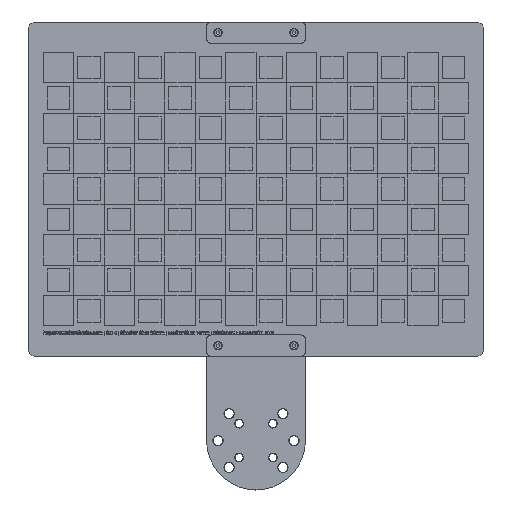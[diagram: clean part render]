
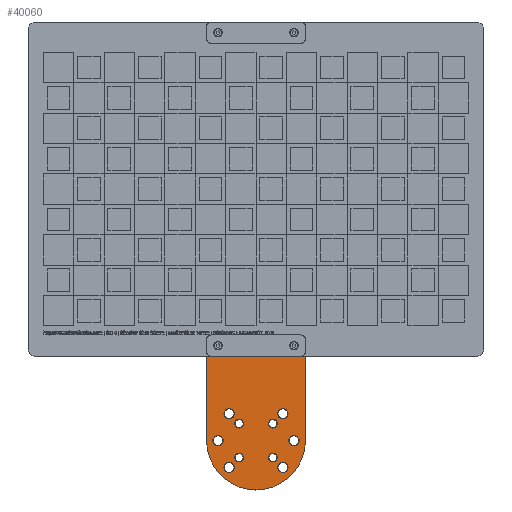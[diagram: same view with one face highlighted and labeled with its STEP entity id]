
A CAD part, top view. The second image highlights one B-rep face of the part: STEP entity #40060.
In plain terms, the highlighted planar face has unit normal (0, 0, 1).
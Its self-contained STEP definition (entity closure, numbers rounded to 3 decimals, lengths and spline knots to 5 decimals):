
#2836=CIRCLE('',#42853,0.0034);
#2837=CIRCLE('',#42854,0.0034);
#2838=CIRCLE('',#42855,0.0034);
#2839=CIRCLE('',#42856,0.0034);
#2840=CIRCLE('',#42857,0.0034);
#2841=CIRCLE('',#42858,0.0034);
#2842=CIRCLE('',#42859,0.00285);
#2843=CIRCLE('',#42860,0.00285);
#2844=CIRCLE('',#42861,0.00285);
#2845=CIRCLE('',#42862,0.00285);
#2846=CIRCLE('',#42863,0.00132);
#2847=CIRCLE('',#42864,0.00132);
#2848=CIRCLE('',#42865,0.00132);
#2849=CIRCLE('',#42866,0.00132);
#2850=CIRCLE('',#42867,0.003);
#2851=CIRCLE('',#42868,0.003);
#2852=CIRCLE('',#42869,0.0325);
#2996=ORIENTED_EDGE('',*,*,#15059,.T.);
#2997=ORIENTED_EDGE('',*,*,#15060,.T.);
#2998=ORIENTED_EDGE('',*,*,#15061,.T.);
#2999=ORIENTED_EDGE('',*,*,#15062,.T.);
#3000=ORIENTED_EDGE('',*,*,#15063,.T.);
#3001=ORIENTED_EDGE('',*,*,#15064,.T.);
#3002=ORIENTED_EDGE('',*,*,#15065,.T.);
#3003=ORIENTED_EDGE('',*,*,#15066,.T.);
#3004=ORIENTED_EDGE('',*,*,#15067,.T.);
#3005=ORIENTED_EDGE('',*,*,#15068,.T.);
#3006=ORIENTED_EDGE('',*,*,#15069,.T.);
#3007=ORIENTED_EDGE('',*,*,#15070,.T.);
#3008=ORIENTED_EDGE('',*,*,#15071,.T.);
#3009=ORIENTED_EDGE('',*,*,#15072,.T.);
#3010=ORIENTED_EDGE('',*,*,#15073,.T.);
#3011=ORIENTED_EDGE('',*,*,#15074,.T.);
#3012=ORIENTED_EDGE('',*,*,#15075,.T.);
#3013=ORIENTED_EDGE('',*,*,#15076,.T.);
#3014=ORIENTED_EDGE('',*,*,#15077,.F.);
#3015=ORIENTED_EDGE('',*,*,#15078,.T.);
#15059=EDGE_CURVE('',#21099,#21099,#2836,.F.);
#15060=EDGE_CURVE('',#21100,#21100,#2837,.F.);
#15061=EDGE_CURVE('',#21101,#21101,#2838,.F.);
#15062=EDGE_CURVE('',#21102,#21102,#2839,.F.);
#15063=EDGE_CURVE('',#21103,#21103,#2840,.F.);
#15064=EDGE_CURVE('',#21104,#21104,#2841,.F.);
#15065=EDGE_CURVE('',#21105,#21105,#2842,.F.);
#15066=EDGE_CURVE('',#21106,#21106,#2843,.F.);
#15067=EDGE_CURVE('',#21107,#21107,#2844,.F.);
#15068=EDGE_CURVE('',#21108,#21108,#2845,.F.);
#15069=EDGE_CURVE('',#21109,#21109,#2846,.T.);
#15070=EDGE_CURVE('',#21110,#21110,#2847,.T.);
#15071=EDGE_CURVE('',#21111,#21111,#2848,.T.);
#15072=EDGE_CURVE('',#21112,#21112,#2849,.T.);
#15073=EDGE_CURVE('',#21113,#21114,#25047,.T.);
#15074=EDGE_CURVE('',#21114,#21115,#2850,.T.);
#15075=EDGE_CURVE('',#21115,#21116,#25048,.T.);
#15076=EDGE_CURVE('',#21116,#21117,#2851,.T.);
#15077=EDGE_CURVE('',#21118,#21117,#25049,.T.);
#15078=EDGE_CURVE('',#21118,#21113,#2852,.T.);
#21099=VERTEX_POINT('',#51794);
#21100=VERTEX_POINT('',#51796);
#21101=VERTEX_POINT('',#51798);
#21102=VERTEX_POINT('',#51800);
#21103=VERTEX_POINT('',#51802);
#21104=VERTEX_POINT('',#51804);
#21105=VERTEX_POINT('',#51806);
#21106=VERTEX_POINT('',#51808);
#21107=VERTEX_POINT('',#51810);
#21108=VERTEX_POINT('',#51812);
#21109=VERTEX_POINT('',#51814);
#21110=VERTEX_POINT('',#51816);
#21111=VERTEX_POINT('',#51818);
#21112=VERTEX_POINT('',#51820);
#21113=VERTEX_POINT('',#51822);
#21114=VERTEX_POINT('',#51823);
#21115=VERTEX_POINT('',#51825);
#21116=VERTEX_POINT('',#51827);
#21117=VERTEX_POINT('',#51829);
#21118=VERTEX_POINT('',#51831);
#25047=LINE('',#51821,#29237);
#25048=LINE('',#51826,#29238);
#25049=LINE('',#51830,#29239);
#29237=VECTOR('',#44513,1.);
#29238=VECTOR('',#44516,1.);
#29239=VECTOR('',#44519,1.);
#33435=EDGE_LOOP('',(#2996));
#33436=EDGE_LOOP('',(#2997));
#33437=EDGE_LOOP('',(#2998));
#33438=EDGE_LOOP('',(#2999));
#33439=EDGE_LOOP('',(#3000));
#33440=EDGE_LOOP('',(#3001));
#33441=EDGE_LOOP('',(#3002));
#33442=EDGE_LOOP('',(#3003));
#33443=EDGE_LOOP('',(#3004));
#33444=EDGE_LOOP('',(#3005));
#33445=EDGE_LOOP('',(#3006));
#33446=EDGE_LOOP('',(#3007));
#33447=EDGE_LOOP('',(#3008));
#33448=EDGE_LOOP('',(#3009));
#33449=EDGE_LOOP('',(#3010,#3011,#3012,#3013,#3014,#3015));
#36052=FACE_BOUND('',#33435,.T.);
#36053=FACE_BOUND('',#33436,.T.);
#36054=FACE_BOUND('',#33437,.T.);
#36055=FACE_BOUND('',#33438,.T.);
#36056=FACE_BOUND('',#33439,.T.);
#36057=FACE_BOUND('',#33440,.T.);
#36058=FACE_BOUND('',#33441,.T.);
#36059=FACE_BOUND('',#33442,.T.);
#36060=FACE_BOUND('',#33443,.T.);
#36061=FACE_BOUND('',#33444,.T.);
#36062=FACE_BOUND('',#33445,.T.);
#36063=FACE_BOUND('',#33446,.T.);
#36064=FACE_BOUND('',#33447,.T.);
#36065=FACE_BOUND('',#33448,.T.);
#36066=FACE_BOUND('',#33449,.T.);
#38651=PLANE('',#42852);
#40060=ADVANCED_FACE('',(#36052,#36053,#36054,#36055,#36056,#36057,#36058,
#36059,#36060,#36061,#36062,#36063,#36064,#36065,#36066),#38651,.T.);
#42852=AXIS2_PLACEMENT_3D('',#51792,#44483,#44484);
#42853=AXIS2_PLACEMENT_3D('',#51793,#44485,#44486);
#42854=AXIS2_PLACEMENT_3D('',#51795,#44487,#44488);
#42855=AXIS2_PLACEMENT_3D('',#51797,#44489,#44490);
#42856=AXIS2_PLACEMENT_3D('',#51799,#44491,#44492);
#42857=AXIS2_PLACEMENT_3D('',#51801,#44493,#44494);
#42858=AXIS2_PLACEMENT_3D('',#51803,#44495,#44496);
#42859=AXIS2_PLACEMENT_3D('',#51805,#44497,#44498);
#42860=AXIS2_PLACEMENT_3D('',#51807,#44499,#44500);
#42861=AXIS2_PLACEMENT_3D('',#51809,#44501,#44502);
#42862=AXIS2_PLACEMENT_3D('',#51811,#44503,#44504);
#42863=AXIS2_PLACEMENT_3D('',#51813,#44505,#44506);
#42864=AXIS2_PLACEMENT_3D('',#51815,#44507,#44508);
#42865=AXIS2_PLACEMENT_3D('',#51817,#44509,#44510);
#42866=AXIS2_PLACEMENT_3D('',#51819,#44511,#44512);
#42867=AXIS2_PLACEMENT_3D('',#51824,#44514,#44515);
#42868=AXIS2_PLACEMENT_3D('',#51828,#44517,#44518);
#42869=AXIS2_PLACEMENT_3D('',#51832,#44520,#44521);
#44483=DIRECTION('',(0.,0.,1.));
#44484=DIRECTION('',(1.,0.,0.));
#44485=DIRECTION('',(0.,0.,1.));
#44486=DIRECTION('',(1.,0.,0.));
#44487=DIRECTION('',(0.,0.,1.));
#44488=DIRECTION('',(1.,0.,0.));
#44489=DIRECTION('',(0.,0.,1.));
#44490=DIRECTION('',(1.,0.,0.));
#44491=DIRECTION('',(0.,0.,1.));
#44492=DIRECTION('',(1.,0.,0.));
#44493=DIRECTION('',(0.,0.,1.));
#44494=DIRECTION('',(1.,0.,0.));
#44495=DIRECTION('',(0.,0.,1.));
#44496=DIRECTION('',(1.,0.,0.));
#44497=DIRECTION('',(0.,0.,1.));
#44498=DIRECTION('',(1.,0.,0.));
#44499=DIRECTION('',(0.,0.,1.));
#44500=DIRECTION('',(1.,0.,0.));
#44501=DIRECTION('',(0.,0.,1.));
#44502=DIRECTION('',(1.,0.,0.));
#44503=DIRECTION('',(0.,0.,1.));
#44504=DIRECTION('',(1.,0.,0.));
#44505=DIRECTION('',(0.,0.,-1.));
#44506=DIRECTION('',(-1.,0.,0.));
#44507=DIRECTION('',(0.,0.,-1.));
#44508=DIRECTION('',(-1.,0.,0.));
#44509=DIRECTION('',(0.,0.,-1.));
#44510=DIRECTION('',(-1.,0.,0.));
#44511=DIRECTION('',(0.,0.,-1.));
#44512=DIRECTION('',(-1.,0.,0.));
#44513=DIRECTION('',(0.,1.,0.));
#44514=DIRECTION('',(0.,0.,1.));
#44515=DIRECTION('',(1.,0.,0.));
#44516=DIRECTION('',(-1.,0.,0.));
#44517=DIRECTION('',(0.,0.,1.));
#44518=DIRECTION('',(1.,0.,0.));
#44519=DIRECTION('',(0.,1.,0.));
#44520=DIRECTION('',(0.,0.,1.));
#44521=DIRECTION('',(1.,0.,0.));
#51792=CARTESIAN_POINT('',(0.,0.1215,0.002));
#51793=CARTESIAN_POINT('',(0.025,0.,0.002));
#51794=CARTESIAN_POINT('',(0.0284,0.,0.002));
#51795=CARTESIAN_POINT('',(0.01768,0.01768,0.002));
#51796=CARTESIAN_POINT('',(0.02108,0.01768,0.002));
#51797=CARTESIAN_POINT('',(-0.01768,0.01768,0.002));
#51798=CARTESIAN_POINT('',(-0.01428,0.01768,0.002));
#51799=CARTESIAN_POINT('',(-0.01768,-0.01768,0.002));
#51800=CARTESIAN_POINT('',(-0.01428,-0.01768,0.002));
#51801=CARTESIAN_POINT('',(0.01768,-0.01768,0.002));
#51802=CARTESIAN_POINT('',(0.02108,-0.01768,0.002));
#51803=CARTESIAN_POINT('',(-0.025,0.,0.002));
#51804=CARTESIAN_POINT('',(-0.0216,0.,0.002));
#51805=CARTESIAN_POINT('',(-0.01114,-0.01114,0.002));
#51806=CARTESIAN_POINT('',(-0.00829,-0.01114,0.002));
#51807=CARTESIAN_POINT('',(0.01114,-0.01114,0.002));
#51808=CARTESIAN_POINT('',(0.01399,-0.01114,0.002));
#51809=CARTESIAN_POINT('',(0.01114,0.01114,0.002));
#51810=CARTESIAN_POINT('',(0.01399,0.01114,0.002));
#51811=CARTESIAN_POINT('',(-0.01114,0.01114,0.002));
#51812=CARTESIAN_POINT('',(-0.00829,0.01114,0.002));
#51813=CARTESIAN_POINT('',(-0.025,0.0625,0.002));
#51814=CARTESIAN_POINT('',(-0.02632,0.0625,0.002));
#51815=CARTESIAN_POINT('',(0.025,0.0625,0.002));
#51816=CARTESIAN_POINT('',(0.02368,0.0625,0.002));
#51817=CARTESIAN_POINT('',(0.025,0.2685,0.002));
#51818=CARTESIAN_POINT('',(0.02368,0.2685,0.002));
#51819=CARTESIAN_POINT('',(-0.025,0.2685,0.002));
#51820=CARTESIAN_POINT('',(-0.02632,0.2685,0.002));
#51821=CARTESIAN_POINT('',(0.0325,0.1215,0.002));
#51822=CARTESIAN_POINT('',(0.0325,0.,0.002));
#51823=CARTESIAN_POINT('',(0.0325,0.2725,0.002));
#51824=CARTESIAN_POINT('',(0.0295,0.2725,0.002));
#51825=CARTESIAN_POINT('',(0.0295,0.2755,0.002));
#51826=CARTESIAN_POINT('',(0.,0.2755,0.002));
#51827=CARTESIAN_POINT('',(-0.0295,0.2755,0.002));
#51828=CARTESIAN_POINT('',(-0.0295,0.2725,0.002));
#51829=CARTESIAN_POINT('',(-0.0325,0.2725,0.002));
#51830=CARTESIAN_POINT('',(-0.0325,0.1215,0.002));
#51831=CARTESIAN_POINT('',(-0.0325,0.,0.002));
#51832=CARTESIAN_POINT('',(0.,0.,0.002));
